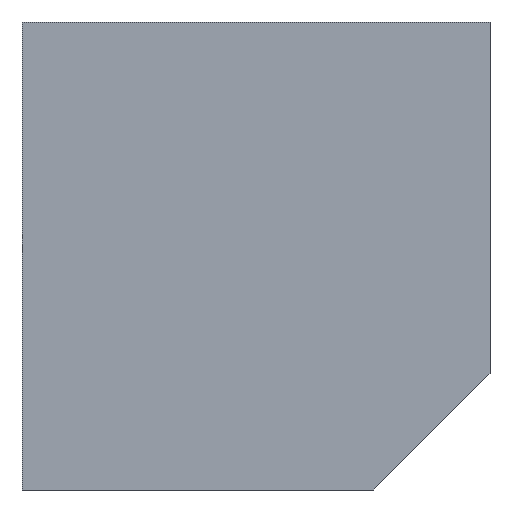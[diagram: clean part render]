
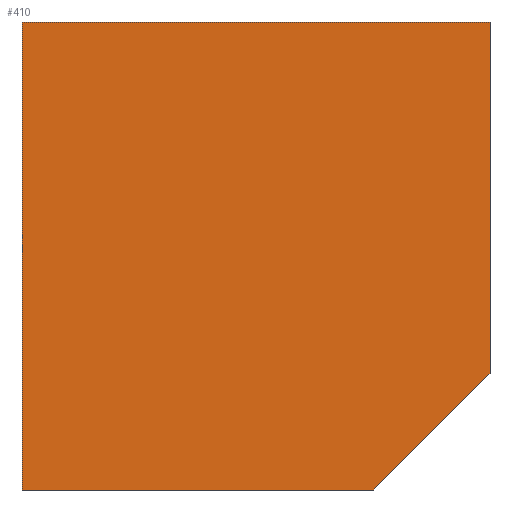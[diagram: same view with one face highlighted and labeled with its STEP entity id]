
A CAD part, left-side view. The second image highlights one B-rep face of the part: STEP entity #410.
In plain terms, the highlighted planar face has unit normal (-1, 0, 0).
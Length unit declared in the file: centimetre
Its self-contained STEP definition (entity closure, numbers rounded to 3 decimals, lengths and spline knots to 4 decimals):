
#15 = LINE ( 'NONE', #281, #481 ) ;
#34 = VERTEX_POINT ( 'NONE', #77 ) ;
#66 = DIRECTION ( 'NONE',  ( 0., -1., 0. ) ) ;
#70 = VECTOR ( 'NONE', #66, 100. ) ;
#72 = LINE ( 'NONE', #76, #420 ) ;
#76 = CARTESIAN_POINT ( 'NONE',  ( 0., 0., 1000. ) ) ;
#77 = CARTESIAN_POINT ( 'NONE',  ( 0., 1000., 0. ) ) ;
#95 = LINE ( 'NONE', #308, #666 ) ;
#130 = DIRECTION ( 'NONE',  ( 1., 0., 0. ) ) ;
#134 = AXIS2_PLACEMENT_3D ( 'NONE', #240, #130, #564 ) ;
#153 = CARTESIAN_POINT ( 'NONE',  ( 0., 1000., 1000. ) ) ;
#172 = EDGE_CURVE ( 'NONE', #198, #34, #650, .T. ) ;
#176 = LINE ( 'NONE', #624, #70 ) ;
#185 = ORIENTED_EDGE ( 'NONE', *, *, #434, .F. ) ;
#194 = EDGE_CURVE ( 'NONE', #198, #432, #95, .T. ) ;
#198 = VERTEX_POINT ( 'NONE', #153 ) ;
#237 = DIRECTION ( 'NONE',  ( 0., 0., -1. ) ) ;
#240 = CARTESIAN_POINT ( 'NONE',  ( 0., 1000., 1000. ) ) ;
#244 = CARTESIAN_POINT ( 'NONE',  ( 0., 0., 248.2638 ) ) ;
#275 = ORIENTED_EDGE ( 'NONE', *, *, #172, .T. ) ;
#281 = CARTESIAN_POINT ( 'NONE',  ( 0., 0., 248.2638 ) ) ;
#308 = CARTESIAN_POINT ( 'NONE',  ( 0., 1000., 1000. ) ) ;
#354 = CARTESIAN_POINT ( 'NONE',  ( 0., 248.2638, 0. ) ) ;
#360 = ORIENTED_EDGE ( 'NONE', *, *, #660, .T. ) ;
#362 = EDGE_LOOP ( 'NONE', ( #517, #360, #185, #577, #275 ) ) ;
#379 = DIRECTION ( 'NONE',  ( 0., 0., -1. ) ) ;
#405 = VECTOR ( 'NONE', #379, 100. ) ;
#410 = ADVANCED_FACE ( 'NONE', ( #676 ), #615, .F. ) ;
#420 = VECTOR ( 'NONE', #237, 100. ) ;
#432 = VERTEX_POINT ( 'NONE', #558 ) ;
#434 = EDGE_CURVE ( 'NONE', #432, #525, #72, .T. ) ;
#457 = EDGE_CURVE ( 'NONE', #34, #625, #176, .T. ) ;
#481 = VECTOR ( 'NONE', #497, 100. ) ;
#497 = DIRECTION ( 'NONE',  ( 0., -0.707, 0.707 ) ) ;
#517 = ORIENTED_EDGE ( 'NONE', *, *, #457, .T. ) ;
#525 = VERTEX_POINT ( 'NONE', #244 ) ;
#558 = CARTESIAN_POINT ( 'NONE',  ( 0., 0., 1000. ) ) ;
#564 = DIRECTION ( 'NONE',  ( 0., 0., -1. ) ) ;
#577 = ORIENTED_EDGE ( 'NONE', *, *, #194, .F. ) ;
#596 = CARTESIAN_POINT ( 'NONE',  ( 0., 1000., 1000. ) ) ;
#615 = PLANE ( 'NONE',  #134 ) ;
#624 = CARTESIAN_POINT ( 'NONE',  ( 0., 1000., 0. ) ) ;
#625 = VERTEX_POINT ( 'NONE', #354 ) ;
#638 = DIRECTION ( 'NONE',  ( 0., -1., 0. ) ) ;
#650 = LINE ( 'NONE', #596, #405 ) ;
#660 = EDGE_CURVE ( 'NONE', #625, #525, #15, .T. ) ;
#666 = VECTOR ( 'NONE', #638, 100. ) ;
#676 = FACE_OUTER_BOUND ( 'NONE', #362, .T. ) ;
